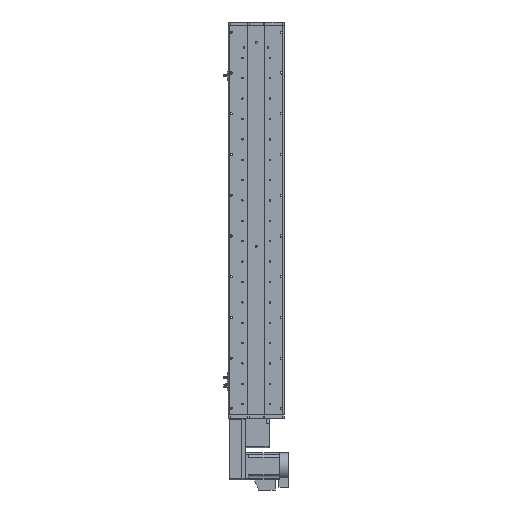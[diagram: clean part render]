
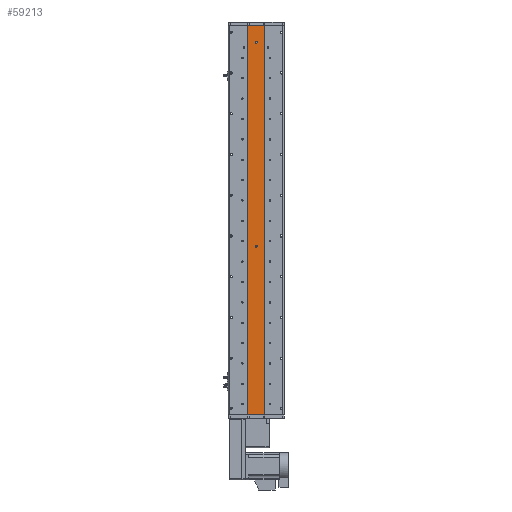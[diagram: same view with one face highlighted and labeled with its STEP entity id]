
A CAD part, front view. The second image highlights one B-rep face of the part: STEP entity #59213.
In plain terms, the highlighted planar face has unit normal (0, -1, 0).
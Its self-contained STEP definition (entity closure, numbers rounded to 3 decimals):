
#79 = CARTESIAN_POINT ( 'NONE',  ( 0., 1., 523.5 ) ) ;
#1122 = VECTOR ( 'NONE', #60421, 1000. ) ;
#1286 = AXIS2_PLACEMENT_3D ( 'NONE', #48352, #18433, #53356 ) ;
#3613 = CARTESIAN_POINT ( 'NONE',  ( -25., 1., 573.5 ) ) ;
#3833 = CIRCLE ( 'NONE', #57289, 3. ) ;
#3951 = EDGE_CURVE ( 'NONE', #23609, #58987, #24235, .T. ) ;
#5046 = EDGE_CURVE ( 'NONE', #29762, #59842, #3833, .T. ) ;
#5058 = DIRECTION ( 'NONE',  ( 0., 0., -1. ) ) ;
#6019 = CARTESIAN_POINT ( 'NONE',  ( 0., 1., -76.5 ) ) ;
#6516 = CARTESIAN_POINT ( 'NONE',  ( 25., 1., 573.5 ) ) ;
#7336 = ORIENTED_EDGE ( 'NONE', *, *, #13386, .F. ) ;
#7867 = EDGE_CURVE ( 'NONE', #22202, #39613, #27005, .T. ) ;
#10769 = CARTESIAN_POINT ( 'NONE',  ( 25., 1., -573.5 ) ) ;
#11032 = DIRECTION ( 'NONE',  ( 0., 0., -1. ) ) ;
#11132 = EDGE_CURVE ( 'NONE', #19640, #60921, #22640, .T. ) ;
#11287 = ORIENTED_EDGE ( 'NONE', *, *, #3951, .F. ) ;
#12290 = DIRECTION ( 'NONE',  ( 0., 0., -1. ) ) ;
#12481 = CARTESIAN_POINT ( 'NONE',  ( -25., 1., 573.5 ) ) ;
#12895 = DIRECTION ( 'NONE',  ( 0., 0., 1. ) ) ;
#13386 = EDGE_CURVE ( 'NONE', #60921, #19640, #22571, .T. ) ;
#14347 = ORIENTED_EDGE ( 'NONE', *, *, #39777, .F. ) ;
#16828 = ORIENTED_EDGE ( 'NONE', *, *, #55138, .F. ) ;
#18048 = CARTESIAN_POINT ( 'NONE',  ( 0., 1., -79.5 ) ) ;
#18433 = DIRECTION ( 'NONE',  ( 0., -1., 0. ) ) ;
#19624 = LINE ( 'NONE', #6516, #44592 ) ;
#19640 = VERTEX_POINT ( 'NONE', #20227 ) ;
#19986 = FACE_BOUND ( 'NONE', #46487, .T. ) ;
#20227 = CARTESIAN_POINT ( 'NONE',  ( 0., 1., -73.5 ) ) ;
#22202 = VERTEX_POINT ( 'NONE', #12481 ) ;
#22571 = CIRCLE ( 'NONE', #31048, 3. ) ;
#22640 = CIRCLE ( 'NONE', #63576, 3. ) ;
#22766 = CARTESIAN_POINT ( 'NONE',  ( 25., 1., 573.5 ) ) ;
#23609 = VERTEX_POINT ( 'NONE', #51017 ) ;
#24235 = LINE ( 'NONE', #42205, #35936 ) ;
#25104 = CARTESIAN_POINT ( 'NONE',  ( -25., 1., -573.5 ) ) ;
#25416 = VECTOR ( 'NONE', #43322, 1000. ) ;
#25770 = EDGE_CURVE ( 'NONE', #39613, #58987, #27668, .T. ) ;
#27005 = LINE ( 'NONE', #3613, #25416 ) ;
#27668 = LINE ( 'NONE', #30485, #1122 ) ;
#28497 = DIRECTION ( 'NONE',  ( 0., -1., 0. ) ) ;
#29762 = VERTEX_POINT ( 'NONE', #54636 ) ;
#30485 = CARTESIAN_POINT ( 'NONE',  ( 25., 1., -573.5 ) ) ;
#31048 = AXIS2_PLACEMENT_3D ( 'NONE', #58452, #28497, #63467 ) ;
#32300 = ORIENTED_EDGE ( 'NONE', *, *, #7867, .T. ) ;
#34979 = DIRECTION ( 'NONE',  ( 0., -1., 0. ) ) ;
#35936 = VECTOR ( 'NONE', #12290, 1000. ) ;
#37757 = PLANE ( 'NONE',  #57182 ) ;
#39613 = VERTEX_POINT ( 'NONE', #25104 ) ;
#39777 = EDGE_CURVE ( 'NONE', #22202, #23609, #19624, .T. ) ;
#40947 = DIRECTION ( 'NONE',  ( 0., -1., 0. ) ) ;
#42205 = CARTESIAN_POINT ( 'NONE',  ( 25., 1., 573.5 ) ) ;
#42826 = DIRECTION ( 'NONE',  ( 0., 1., 0. ) ) ;
#43322 = DIRECTION ( 'NONE',  ( 0., 0., -1. ) ) ;
#44592 = VECTOR ( 'NONE', #61394, 1000. ) ;
#46487 = EDGE_LOOP ( 'NONE', ( #7336, #59702 ) ) ;
#46528 = FACE_OUTER_BOUND ( 'NONE', #47528, .T. ) ;
#47528 = EDGE_LOOP ( 'NONE', ( #53297, #11287, #14347, #32300 ) ) ;
#48352 = CARTESIAN_POINT ( 'NONE',  ( 0., 1., 523.5 ) ) ;
#49521 = CARTESIAN_POINT ( 'NONE',  ( 0., 1., 520.5 ) ) ;
#51017 = CARTESIAN_POINT ( 'NONE',  ( 25., 1., 573.5 ) ) ;
#53297 = ORIENTED_EDGE ( 'NONE', *, *, #25770, .T. ) ;
#53356 = DIRECTION ( 'NONE',  ( 0., 0., -1. ) ) ;
#54285 = ORIENTED_EDGE ( 'NONE', *, *, #5046, .F. ) ;
#54636 = CARTESIAN_POINT ( 'NONE',  ( 0., 1., 526.5 ) ) ;
#55138 = EDGE_CURVE ( 'NONE', #59842, #29762, #60893, .T. ) ;
#56672 = EDGE_LOOP ( 'NONE', ( #16828, #54285 ) ) ;
#57182 = AXIS2_PLACEMENT_3D ( 'NONE', #22766, #42826, #12895 ) ;
#57289 = AXIS2_PLACEMENT_3D ( 'NONE', #79, #34979, #5058 ) ;
#58452 = CARTESIAN_POINT ( 'NONE',  ( 0., 1., -76.5 ) ) ;
#58987 = VERTEX_POINT ( 'NONE', #10769 ) ;
#59213 = ADVANCED_FACE ( 'NONE', ( #61431, #19986, #46528 ), #37757, .F. ) ;
#59702 = ORIENTED_EDGE ( 'NONE', *, *, #11132, .F. ) ;
#59842 = VERTEX_POINT ( 'NONE', #49521 ) ;
#60421 = DIRECTION ( 'NONE',  ( 1., 0., 0. ) ) ;
#60893 = CIRCLE ( 'NONE', #1286, 3. ) ;
#60921 = VERTEX_POINT ( 'NONE', #18048 ) ;
#61394 = DIRECTION ( 'NONE',  ( 1., 0., 0. ) ) ;
#61431 = FACE_BOUND ( 'NONE', #56672, .T. ) ;
#63467 = DIRECTION ( 'NONE',  ( 0., 0., -1. ) ) ;
#63576 = AXIS2_PLACEMENT_3D ( 'NONE', #6019, #40947, #11032 ) ;
